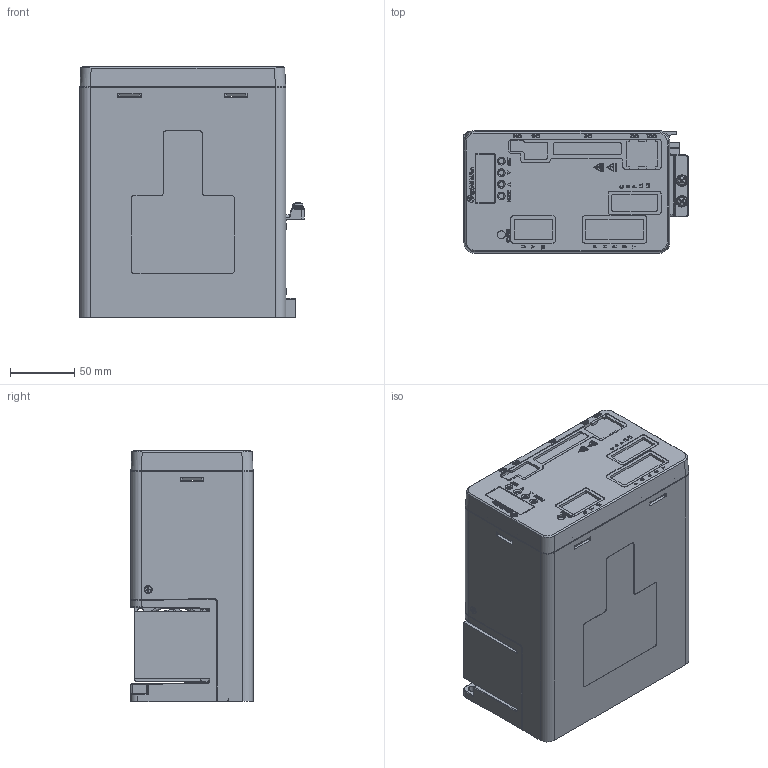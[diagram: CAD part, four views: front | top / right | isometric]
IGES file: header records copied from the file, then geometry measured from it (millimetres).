
Global section: file name: 7HNo Iges File Name specified; native system: AutoDesk Inventor R12.0; preprocessor: AutoDesk Inventor Iges Exporter R12.0; author: No Author specified; organization: No Organization specified; date: 20150122.161519; units: millimetre
Bounding box: 174.7 x 95 x 195.5 mm (x, y, z)
Volume: 910303.5 mm3; surface area: 328055.5 mm2
Topology: 5 solids, 5 shells, 5538 faces, 15641 edges, 10173 vertices
Faces by surface type: plane 3916, bspline 613, revolution 402, cylinder 393, torus 116, cone 61, sphere 37
